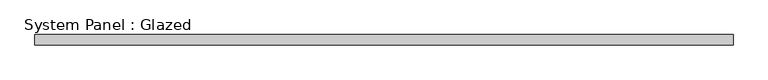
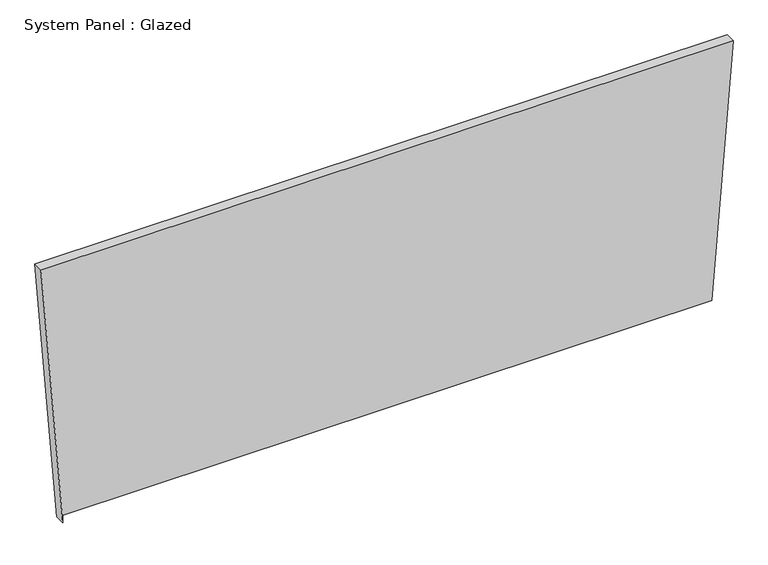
"""IFC4 building model written with IfcOpenShell, lengths in millimetres: plate geometry, System Panel : Glazed."""

import ifcopenshell
import ifcopenshell.guid

model = None  # the IFC model being written
_history = None  # IfcOwnerHistory: only IFC2X3 demands one
_inside = {}  # id of a spatial element -> (the spatial element, [elements in it])
_under = {}  # id of a project, library or spatial element -> (it, [spatial elements below it])
_declared = {}  # id of a project -> (the project, [libraries it declares])
_typed = {}  # id of a type object -> (the type object, [elements of that type])
_made_of = {}  # id of a material, layer set ... -> (it, [elements and type objects made of it])


def new_model(schema):
    """Start an empty IFC model of exactly this schema.

    Asked for "IFC4X3", IfcOpenShell would pick the latest addendum, in which some entities
    have other attributes; the version numbers below select the first issue.
    IFC2X3 requires an IfcOwnerHistory on every rooted entity: one is made here for all.
    """
    global model, _history
    if schema == "IFC4X3":
        model = ifcopenshell.file(schema_version=(4, 3, 0, 0))
    else:
        model = ifcopenshell.file(schema=schema)
    _inside.clear()
    _under.clear()
    _declared.clear()
    _typed.clear()
    _made_of.clear()
    _history = None
    if model.schema == "IFC2X3":
        org = make("IfcOrganization", Name="unknown")
        user = make(
            "IfcPersonAndOrganization",
            ThePerson=make("IfcPerson", FamilyName="unknown"),
            TheOrganization=org,
        )
        app = make(
            "IfcApplication",
            ApplicationDeveloper=org,
            Version="unknown",
            ApplicationFullName="unknown",
            ApplicationIdentifier="unknown",
        )
        _history = make(
            "IfcOwnerHistory",
            OwningUser=user,
            OwningApplication=app,
            ChangeAction="ADDED",
            CreationDate=0,
        )
    return model


def make(cls, **values):
    """One entity of the class cls with the attributes given. An attribute that is None is left unset."""
    return model.create_entity(
        cls, **{name: value for name, value in values.items() if value is not None}
    )


def rooted(cls, **values):
    """An entity with a GlobalId (a new one), such as an element, a storey or a relation."""
    return make(cls, GlobalId=ifcopenshell.guid.new(), OwnerHistory=_history, **values)


def si_unit(unit_type, name, prefix=None):
    """IfcSIUnit, for example si_unit("LENGTHUNIT", "METRE", prefix="MILLI")."""
    return make("IfcSIUnit", UnitType=unit_type, Prefix=prefix, Name=name)


def assignment(units):
    """IfcUnitAssignment: the units of a project."""
    return None if units is None else make("IfcUnitAssignment", Units=units)


def point(xyz):
    """IfcCartesianPoint."""
    return None if xyz is None else make("IfcCartesianPoint", Coordinates=xyz)


def direction(xyz):
    """IfcDirection."""
    return None if xyz is None else make("IfcDirection", DirectionRatios=xyz)


def frame(location, z_axis=None, x_axis=None):
    """IfcAxis2Placement3D, a coordinate frame: its origin and axes. An axis left out is left unset."""
    return make(
        "IfcAxis2Placement3D",
        Location=point(location),
        Axis=direction(z_axis),
        RefDirection=direction(x_axis),
    )


def origin():
    """The frame at (0, 0, 0) with its axes left unset."""
    return frame((0.0, 0.0, 0.0))


def place(relative_to, where):
    """IfcLocalPlacement: puts the frame where relative to a parent placement (None: the world)."""
    return make(
        "IfcLocalPlacement", PlacementRelTo=relative_to, RelativePlacement=where
    )


def context(
    kind, dimensions, precision=None, world=None, true_north=None, identifier=None
):
    """IfcGeometricRepresentationContext, for example the 3D "Model" context."""
    return make(
        "IfcGeometricRepresentationContext",
        ContextIdentifier=identifier,
        ContextType=kind,
        CoordinateSpaceDimension=dimensions,
        Precision=precision,
        WorldCoordinateSystem=world,
        TrueNorth=true_north,
    )


def project(units=None, contexts=None):
    """IfcProject with its units and contexts."""
    return rooted(
        "IfcProject",
        Name="project",
        RepresentationContexts=contexts,
        UnitsInContext=assignment(units),
    )


def spatial(cls, under=None, at=None, **own):
    """A site, building, storey or space (cls), placed at a placement, below another one or the project."""
    s = rooted(cls, ObjectPlacement=at, **own)
    if under is not None:
        _under.setdefault(under.id(), (under, []))[1].append(s)
    return s


def polyline(points):
    """IfcPolyline through the points."""
    return make("IfcPolyline", Points=[point(p) for p in points])


def outline(outer, holes=None, kind="AREA"):
    """IfcArbitraryClosedProfileDef: a profile drawn as a closed curve; with holes, ...WithVoids."""
    if holes is None:
        return make("IfcArbitraryClosedProfileDef", ProfileType=kind, OuterCurve=outer)
    return make(
        "IfcArbitraryProfileDefWithVoids",
        ProfileType=kind,
        OuterCurve=outer,
        InnerCurves=holes,
    )


def extrude(swept, where, along, depth):
    """IfcExtrudedAreaSolid: the profile swept, set in the frame where, extruded along a direction by depth."""
    return make(
        "IfcExtrudedAreaSolid",
        SweptArea=swept,
        Position=where,
        ExtrudedDirection=direction(along),
        Depth=depth,
    )


def shape(context_of_items, identifier, shape_type, items):
    """IfcShapeRepresentation: the items that make up one representation, for example the "Body"."""
    return make(
        "IfcShapeRepresentation",
        ContextOfItems=context_of_items,
        RepresentationIdentifier=identifier,
        RepresentationType=shape_type,
        Items=items,
    )


def source(mapping_origin, context_of_items, identifier, shape_type, items):
    """IfcRepresentationMap: a shape defined once, which mapped items show again and again."""
    return make(
        "IfcRepresentationMap",
        MappingOrigin=mapping_origin,
        MappedRepresentation=shape(context_of_items, identifier, shape_type, items),
    )


def transform(
    local_origin,
    x_axis=None,
    y_axis=None,
    z_axis=None,
    scale=None,
    scale2=None,
    scale3=None,
    uniform=True,
):
    """IfcCartesianTransformationOperator3D, or its non-uniform kind. x_axis, y_axis, z_axis: its Axis1, 2, 3."""
    if uniform:
        return make(
            "IfcCartesianTransformationOperator3D",
            Axis1=direction(x_axis),
            Axis2=direction(y_axis),
            LocalOrigin=point(local_origin),
            Scale=scale,
            Axis3=direction(z_axis),
        )
    return make(
        "IfcCartesianTransformationOperator3DnonUniform",
        Axis1=direction(x_axis),
        Axis2=direction(y_axis),
        LocalOrigin=point(local_origin),
        Scale=scale,
        Axis3=direction(z_axis),
        Scale2=scale2,
        Scale3=scale3,
    )


def mapped(mapping_source, mapping_target):
    """IfcMappedItem: shows the shape of a source again, moved by a transform."""
    return make(
        "IfcMappedItem", MappingSource=mapping_source, MappingTarget=mapping_target
    )


def made_of(thing, what):
    """Note that an element or type object is made of a material, layer set ...; save() writes the relation."""
    if what is not None:
        _made_of.setdefault(what.id(), (what, []))[1].append(thing)
    return thing


def element(
    cls,
    number,
    at=None,
    inside=None,
    cuts=None,
    type_object=None,
    material=None,
    context=None,
    identifier="Body",
    shape_type=None,
    held_by="IfcProductDefinitionShape",
    body=None,
    shapes=None,
    **own,
):
    """One element of the class cls, such as IfcWall. Its Tag is "e" and its number.

    at: its placement. inside: the storey or other place that contains it. cuts: it is an
    opening in that element (IfcRelVoidsElement). A single representation is given by context,
    identifier, shape_type and body (its items); several are given by shapes. held_by: the class
    of the entity that holds the representations. save() writes the other relations.
    """
    e = rooted(cls, Tag="e%d" % number, ObjectPlacement=at, **own)
    if body is not None:
        shapes = [shape(context, identifier, shape_type, body)]
    if shapes is not None:
        e.Representation = make(held_by, Representations=shapes)
    if inside is not None:
        _inside.setdefault(inside.id(), (inside, []))[1].append(e)
    if cuts is not None:
        rooted(
            "IfcRelVoidsElement", RelatingBuildingElement=cuts, RelatedOpeningElement=e
        )
    if type_object is not None:
        _typed.setdefault(type_object.id(), (type_object, []))[1].append(e)
    return made_of(e, material)


def aggregate(whole, parts):
    """IfcRelAggregates: a whole, such as a stair, and the parts it consists of."""
    return rooted("IfcRelAggregates", RelatingObject=whole, RelatedObjects=parts)


def save(model, path):
    """Write the relations noted so far, then the file.

    IfcRelAggregates (storeys below a building ...), IfcRelContainedInSpatialStructure (elements
    in a storey), IfcRelDefinesByType, IfcRelAssociatesMaterial and IfcRelDeclares: one each for
    every whole, place, type object, material and project.
    """
    for whole, parts in _under.values():
        aggregate(whole, parts)
    for where, things in _inside.values():
        rooted(
            "IfcRelContainedInSpatialStructure",
            RelatedElements=things,
            RelatingStructure=where,
        )
    for kind, things in _typed.values():
        rooted("IfcRelDefinesByType", RelatedObjects=things, RelatingType=kind)
    for what, things in _made_of.values():
        rooted("IfcRelAssociatesMaterial", RelatedObjects=things, RelatingMaterial=what)
    for by, libraries in _declared.values():
        rooted("IfcRelDeclares", RelatingContext=by, RelatedDefinitions=libraries)
    model.write(path)


def system_panel_glazed_12144cfa(model_context):
    return source(origin(), model_context, "Body", "SweptSolid", [
        extrude(outline(polyline([(0.0, -803.5155556), (19.05, -803.5155579), (19.0501937, 805.0314301), (682.1116689, 857.7935641), (682.1114623, -857.7935641), (0.0, -803.5155556)])), frame((0.0, 19.05, 0.0), z_axis=(0.0, 1.0, 0.0), x_axis=(0.0, 0.0, 1.0)), (0.0, 0.0, 1.0), 25.4),
    ])


if __name__ == "__main__":
    model = new_model("IFC4")
    model_context = context("Model", 3, world=origin())
    ifc_project = project(units=[si_unit("LENGTHUNIT", "METRE", prefix="MILLI")], contexts=[model_context])
    site = spatial("IfcSite", under=ifc_project)
    building = spatial("IfcBuilding", under=site)
    placement = place(None, origin())
    system_panel_glazed_shape = system_panel_glazed_12144cfa(model_context)
    element("IfcPlate", 1, ObjectType="System Panel : Glazed", at=placement, inside=building, context=model_context, shape_type="MappedRepresentation", body=[
        mapped(system_panel_glazed_shape, transform((0.0, 0.0, 0.0), x_axis=(1.0, 0.0, 0.0), y_axis=(0.0, 1.0, 0.0), z_axis=(0.0, 0.0, 1.0))),
    ])
    save(model, "model.ifc")
